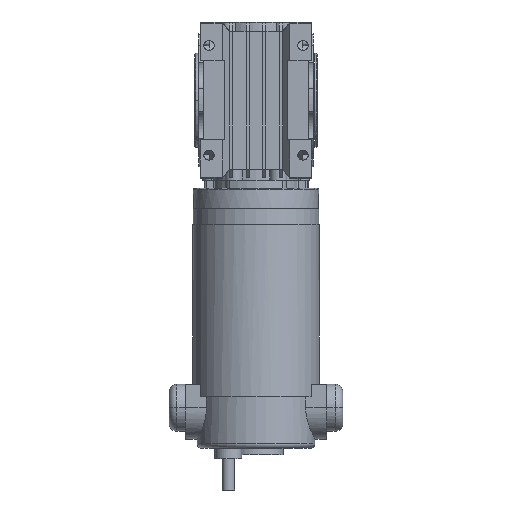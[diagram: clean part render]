
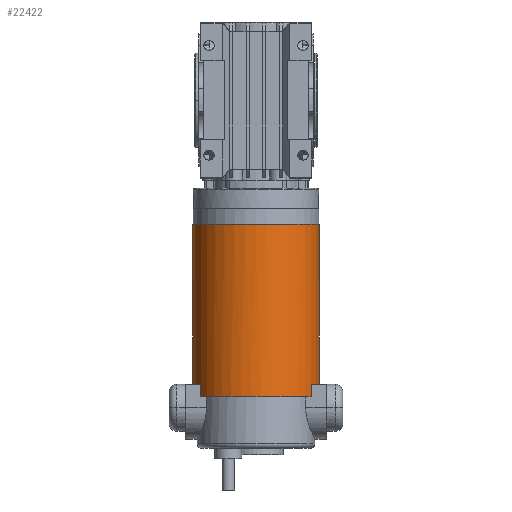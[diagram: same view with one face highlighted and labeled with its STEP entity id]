
A CAD part, front view. The second image highlights one B-rep face of the part: STEP entity #22422.
In plain terms, the highlighted cylindrical face has radius 40.5 mm (diameter 81 mm), a partial arc.
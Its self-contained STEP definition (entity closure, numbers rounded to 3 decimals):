
#496 = ORIENTED_EDGE ( 'NONE', *, *, #29645, .T. ) ;
#1123 = CARTESIAN_POINT ( 'NONE',  ( 0., 0., -10. ) ) ;
#2140 = DIRECTION ( 'NONE',  ( 0., 0., 1. ) ) ;
#2496 = DIRECTION ( 'NONE',  ( 0., 0., 1. ) ) ;
#2643 = VERTEX_POINT ( 'NONE', #22113 ) ;
#3630 = AXIS2_PLACEMENT_3D ( 'NONE', #27117, #39705, #24016 ) ;
#3738 = CIRCLE ( 'NONE', #36784, 40.5 ) ;
#3979 = EDGE_CURVE ( 'NONE', #21979, #16338, #21470, .T. ) ;
#5256 = CARTESIAN_POINT ( 'NONE',  ( 0., 40.5, -10. ) ) ;
#5548 = ORIENTED_EDGE ( 'NONE', *, *, #16528, .F. ) ;
#5744 = CARTESIAN_POINT ( 'NONE',  ( 20., 35.217, -120. ) ) ;
#6662 = DIRECTION ( 'NONE',  ( 0., 0., -1. ) ) ;
#6915 = VERTEX_POINT ( 'NONE', #17413 ) ;
#7346 = FACE_OUTER_BOUND ( 'NONE', #9068, .T. ) ;
#7398 = CARTESIAN_POINT ( 'NONE',  ( 20., 35.217, -120. ) ) ;
#7596 = VECTOR ( 'NONE', #22507, 1000. ) ;
#7768 = CYLINDRICAL_SURFACE ( 'NONE', #26020, 40.5 ) ;
#7842 = ORIENTED_EDGE ( 'NONE', *, *, #31937, .T. ) ;
#8492 = DIRECTION ( 'NONE',  ( 0., 1., 0. ) ) ;
#8751 = CARTESIAN_POINT ( 'NONE',  ( 0., 0., -120. ) ) ;
#8829 = DIRECTION ( 'NONE',  ( 0., 0., 1. ) ) ;
#9068 = EDGE_LOOP ( 'NONE', ( #5548, #13651, #27256, #496, #12968, #34839, #37598, #7842 ) ) ;
#9511 = DIRECTION ( 'NONE',  ( -1., 0., 0. ) ) ;
#9723 = CARTESIAN_POINT ( 'NONE',  ( 20., -35.217, -120. ) ) ;
#9880 = LINE ( 'NONE', #23133, #7596 ) ;
#10696 = DIRECTION ( 'NONE',  ( -1., 0., 0. ) ) ;
#10914 = CIRCLE ( 'NONE', #3630, 40.5 ) ;
#12287 = CARTESIAN_POINT ( 'NONE',  ( 0., -40.5, -120. ) ) ;
#12968 = ORIENTED_EDGE ( 'NONE', *, *, #40214, .T. ) ;
#13651 = ORIENTED_EDGE ( 'NONE', *, *, #24495, .F. ) ;
#14671 = LINE ( 'NONE', #23790, #29965 ) ;
#14765 = AXIS2_PLACEMENT_3D ( 'NONE', #1123, #18636, #9511 ) ;
#16076 = CIRCLE ( 'NONE', #14765, 40.5 ) ;
#16338 = VERTEX_POINT ( 'NONE', #19679 ) ;
#16528 = EDGE_CURVE ( 'NONE', #36826, #6915, #9880, .T. ) ;
#16887 = VERTEX_POINT ( 'NONE', #37957 ) ;
#17413 = CARTESIAN_POINT ( 'NONE',  ( 0., 40.5, -112. ) ) ;
#18636 = DIRECTION ( 'NONE',  ( 0., 0., 1. ) ) ;
#19101 = LINE ( 'NONE', #12287, #21906 ) ;
#19679 = CARTESIAN_POINT ( 'NONE',  ( 20., 35.217, -112. ) ) ;
#20392 = DIRECTION ( 'NONE',  ( 0., 0., -1. ) ) ;
#21470 = LINE ( 'NONE', #5744, #21627 ) ;
#21627 = VECTOR ( 'NONE', #8829, 1000. ) ;
#21906 = VECTOR ( 'NONE', #6662, 1000. ) ;
#21979 = VERTEX_POINT ( 'NONE', #7398 ) ;
#22113 = CARTESIAN_POINT ( 'NONE',  ( 0., -40.5, -112. ) ) ;
#22422 = ADVANCED_FACE ( 'NONE', ( #7346 ), #7768, .T. ) ;
#22507 = DIRECTION ( 'NONE',  ( 0., 0., -1. ) ) ;
#23133 = CARTESIAN_POINT ( 'NONE',  ( 0., 40.5, -120. ) ) ;
#23790 = CARTESIAN_POINT ( 'NONE',  ( 20., -35.217, -120. ) ) ;
#24016 = DIRECTION ( 'NONE',  ( 0., 1., 0. ) ) ;
#24495 = EDGE_CURVE ( 'NONE', #16887, #36826, #16076, .T. ) ;
#26020 = AXIS2_PLACEMENT_3D ( 'NONE', #36090, #20392, #32981 ) ;
#27117 = CARTESIAN_POINT ( 'NONE',  ( 0., 0., -112. ) ) ;
#27256 = ORIENTED_EDGE ( 'NONE', *, *, #37009, .T. ) ;
#29645 = EDGE_CURVE ( 'NONE', #2643, #32991, #3738, .T. ) ;
#29854 = AXIS2_PLACEMENT_3D ( 'NONE', #8751, #2140, #10696 ) ;
#29965 = VECTOR ( 'NONE', #36994, 1000. ) ;
#31937 = EDGE_CURVE ( 'NONE', #16338, #6915, #10914, .T. ) ;
#32450 = CIRCLE ( 'NONE', #29854, 40.5 ) ;
#32981 = DIRECTION ( 'NONE',  ( 0., -1., 0. ) ) ;
#32991 = VERTEX_POINT ( 'NONE', #39923 ) ;
#34839 = ORIENTED_EDGE ( 'NONE', *, *, #36839, .T. ) ;
#36090 = CARTESIAN_POINT ( 'NONE',  ( 0., 0., -120. ) ) ;
#36784 = AXIS2_PLACEMENT_3D ( 'NONE', #39712, #2496, #8492 ) ;
#36826 = VERTEX_POINT ( 'NONE', #5256 ) ;
#36839 = EDGE_CURVE ( 'NONE', #37408, #21979, #32450, .T. ) ;
#36994 = DIRECTION ( 'NONE',  ( 0., 0., -1. ) ) ;
#37009 = EDGE_CURVE ( 'NONE', #16887, #2643, #19101, .T. ) ;
#37408 = VERTEX_POINT ( 'NONE', #9723 ) ;
#37598 = ORIENTED_EDGE ( 'NONE', *, *, #3979, .T. ) ;
#37957 = CARTESIAN_POINT ( 'NONE',  ( 0., -40.5, -10. ) ) ;
#39705 = DIRECTION ( 'NONE',  ( 0., 0., 1. ) ) ;
#39712 = CARTESIAN_POINT ( 'NONE',  ( 0., 0., -112. ) ) ;
#39923 = CARTESIAN_POINT ( 'NONE',  ( 20., -35.217, -112. ) ) ;
#40214 = EDGE_CURVE ( 'NONE', #32991, #37408, #14671, .T. ) ;
